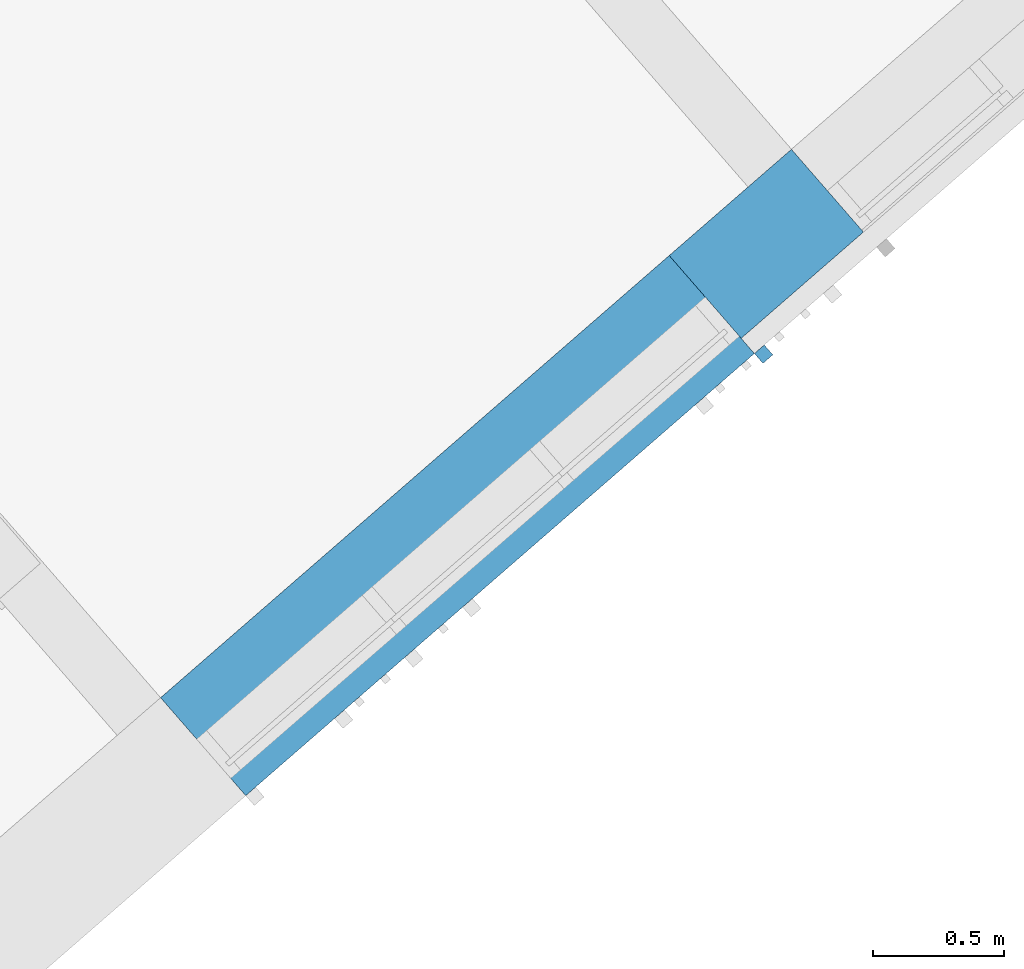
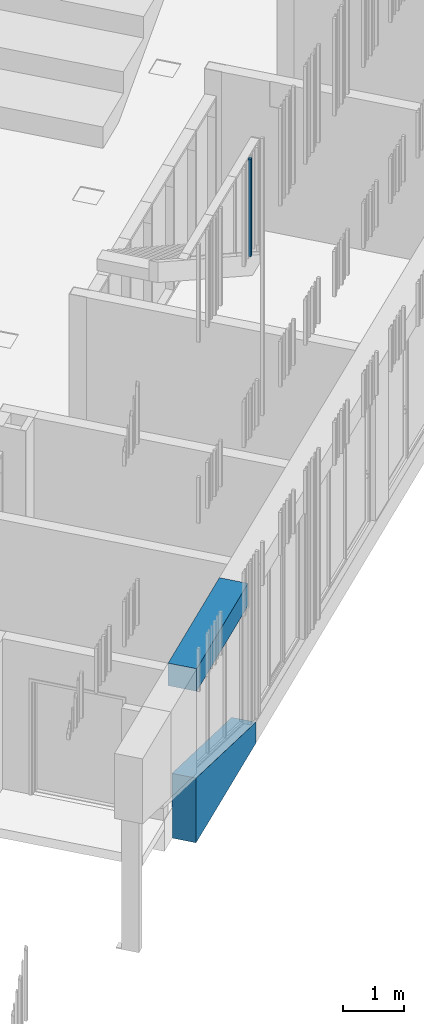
# One storey, part 35 of 124: 3 walls.
"""IFC2X3 building model written with IfcOpenShell, lengths in millimetres."""

from ifc_helpers import new_model, entity, si_unit, converted_unit, derived_unit, money_unit, direction, frame, origin_with_axes, place, context, subcontext, project, spatial, faceted_brep, material, material_list, type_object, element, save


model = new_model("IFC2X3")

# Units and contexts
model_context = context("Model", 3, precision=1e-05, world=origin_with_axes(), true_north=direction((0.0, 1.0)))
body_context = subcontext(model_context, "Body", "Model", "MODEL_VIEW")
ifc_project = project(units=[si_unit("LENGTHUNIT", "METRE", prefix="MILLI"), si_unit("AREAUNIT", "SQUARE_METRE"), si_unit("VOLUMEUNIT", "CUBIC_METRE"), converted_unit("PLANEANGLEUNIT", "DEGREE", entity("IfcPlaneAngleMeasure", 0.0174532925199), si_unit("PLANEANGLEUNIT", "RADIAN"), dimensions=[0, 0, 0, 0, 0, 0, 0]), si_unit("SOLIDANGLEUNIT", "STERADIAN"), money_unit("EUR"), converted_unit("TIMEUNIT", "Year", entity("IfcTimeMeasure", 31556926.0), si_unit("TIMEUNIT", "SECOND"), dimensions=[0, 0, 1, 0, 0, 0, 0]), si_unit("MASSUNIT", "GRAM", prefix="KILO"), si_unit("THERMODYNAMICTEMPERATUREUNIT", "DEGREE_CELSIUS"), si_unit("LUMINOUSINTENSITYUNIT", "LUMEN"), si_unit("ENERGYUNIT", "JOULE", prefix="MEGA"), derived_unit("THERMALCONDUCTANCEUNIT", [(si_unit("POWERUNIT", "WATT"), 1), (si_unit("LENGTHUNIT", "METRE"), -1), (si_unit("THERMODYNAMICTEMPERATUREUNIT", "KELVIN"), -1)]), derived_unit("SPECIFICHEATCAPACITYUNIT", [(si_unit("ENERGYUNIT", "JOULE"), 1), (si_unit("MASSUNIT", "GRAM", prefix="KILO"), -1), (si_unit("THERMODYNAMICTEMPERATUREUNIT", "KELVIN"), -1)]), derived_unit("MASSDENSITYUNIT", [(si_unit("MASSUNIT", "GRAM", prefix="KILO"), 1), (si_unit("VOLUMEUNIT", "CUBIC_METRE"), -1)])], contexts=[model_context])

# Site, building, storey
site_placement = place(None, origin_with_axes())
site = spatial("IfcSite", under=ifc_project, at=site_placement, Name="Site", CompositionType="ELEMENT")
building_placement = place(site_placement, origin_with_axes())
building = spatial("IfcBuilding", under=site, at=building_placement, Name="Building", CompositionType="ELEMENT")
storey_placement = place(building_placement, frame((0.0, 0.0, -1615.0), z_axis=(0.0, 0.0, 1.0), x_axis=(1.0, 0.0, 0.0)))
storey = spatial("IfcBuildingStorey", under=building, at=storey_placement, Name="0  korrus", CompositionType="ELEMENT", Elevation=-1615.0)

# Walls
ifc_material_1 = material(Name="Krohv - Lubjakivi")
ifc_material_2 = material(Name="Raudbetoon - Konstruktsioon")
ifc_material_3 = material(Name="Soojustus - Plastik Kõva")
ifc_material_4 = material(Name="Membraan - Veekindel")
ifc_material_list_1 = material_list([ifc_material_1, ifc_material_2, ifc_material_3, ifc_material_3, ifc_material_4, ifc_material_4])
wall_type_1 = type_object("IfcWallType", Name="VS-03", PredefinedType="NOTDEFINED")
wall_1_placement = place(storey_placement, frame((150680.075905, 76306.4580797, -620.0), z_axis=(0.0, 0.0, 1.0), x_axis=(0.754708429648, 0.656060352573, 0.0)))
element("IfcWall", 1, at=wall_1_placement, inside=storey, type_object=wall_type_1, material=ifc_material_list_1, Name="VS-03", context=body_context, shape_type="Brep", body=[
    faceted_brep([(3009.99995207, 0.0, 420.000005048), (3009.99995207, -10.0, 419.999999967), (3009.99995207, -10.0, 0.0), (3009.99995207, 0.0, 0.0), (0.0, -10.0, 1291.98478212), (0.0, 0.0, 1291.9847872), (0.0, -10.0, 0.0), (0.0, 0.0, 0.0)], [[[0, 1, 2, 3]], [[4, 1, 0, 5]], [[1, 4, 6, 2]], [[7, 3, 2, 6]], [[5, 0, 3, 7]], [[4, 5, 7, 6]]]),
    faceted_brep([(3009.99995207, -10.0, 419.999999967), (3009.99995207, -210.0, 419.999898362), (3009.99995207, -210.0, 0.0), (3009.99995207, -10.0, 0.0), (0.0, -210.0, 1291.98468051), (0.0, -10.0, 1291.98478212), (0.0, -210.0, 0.0), (0.0, -10.0, 0.0)], [[[0, 1, 2, 3]], [[4, 1, 0, 5]], [[1, 4, 6, 2]], [[7, 3, 2, 6]], [[5, 0, 3, 7]], [[4, 5, 7, 6]]]),
    faceted_brep([(3009.99995207, -210.0, 419.999898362), (3009.99995207, -360.0, 419.999822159), (3009.99995207, -360.0, 0.0), (3009.99995207, -210.0, 0.0), (0.0, -360.0, 1291.98460431), (0.0, -210.0, 1291.98468051), (0.0, -360.0, 0.0), (0.0, -210.0, 0.0)], [[[0, 1, 2, 3]], [[4, 1, 0, 5]], [[1, 4, 6, 2]], [[7, 3, 2, 6]], [[5, 0, 3, 7]], [[4, 5, 7, 6]]]),
    faceted_brep([(3009.99995207, -360.0, 419.999822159), (3009.99995207, -410.0, 419.999796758), (3009.99995207, -410.0, 0.0), (3009.99995207, -360.0, 0.0), (0.0, -410.0, 1291.98457891), (0.0, -360.0, 1291.98460431), (0.0, -410.0, 0.0), (0.0, -360.0, 0.0)], [[[0, 1, 2, 3]], [[4, 1, 0, 5]], [[1, 4, 6, 2]], [[7, 3, 2, 6]], [[5, 0, 3, 7]], [[4, 5, 7, 6]]]),
    faceted_brep([(3009.99995207, -410.0, 419.999796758), (3009.99995207, -415.0, 419.999794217), (3009.99995207, -415.0, 0.0), (3009.99995207, -410.0, 0.0), (0.0, -415.0, 1291.98457637), (0.0, -410.0, 1291.98457891), (0.0, -415.0, 0.0), (0.0, -410.0, 0.0)], [[[0, 1, 2, 3]], [[4, 1, 0, 5]], [[1, 4, 6, 2]], [[7, 3, 2, 6]], [[5, 0, 3, 7]], [[4, 5, 7, 6]]]),
    faceted_brep([(3009.99995207, -415.0, 419.999794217), (3009.99995207, -420.0, 419.999791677), (3009.99995207, -420.0, 0.0), (3009.99995207, -415.0, 0.0), (0.0, -420.0, 1291.98457383), (0.0, -415.0, 1291.98457637), (0.0, -420.0, 0.0), (0.0, -415.0, 0.0)], [[[0, 1, 2, 3]], [[4, 1, 0, 5]], [[1, 4, 6, 2]], [[7, 3, 2, 6]], [[5, 0, 3, 7]], [[4, 5, 7, 6]]]),
])
ifc_material_5 = material(Name="Puit - Konstruktsioon")
ifc_material_6 = material(Name="Õhkvahe")
ifc_material_7 = material(Name="Raudbetoon - Toode")
ifc_material_list_2 = material_list([ifc_material_5, ifc_material_5, ifc_material_6, ifc_material_3, ifc_material_3, ifc_material_7, ifc_material_1])
wall_type_2 = type_object("IfcWallType", Name="VS-01", PredefinedType="NOTDEFINED")
wall_2_placement = place(storey_placement, frame((152483.826786, 77874.4422771, 2550.0), z_axis=(0.0, 0.0, 1.0), x_axis=(-0.754709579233, -0.656059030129, 0.0)))
element("IfcWall", 2, at=wall_2_placement, inside=storey, type_object=wall_type_2, material=ifc_material_list_2, Name="VS-01", context=body_context, shape_type="Brep", body=[
    faceted_brep([(2579.98426915, 497.0, 0.0), (2579.98426915, 475.0, 0.0), (0.0, 475.0, 0.0), (0.0, 497.0, 0.0), (2579.98426915, 497.0, 450.0), (2579.98426915, 475.0, 450.0), (0.0, 475.0, 450.0), (0.0, 497.0, 450.0)], [[[0, 1, 2, 3]], [[0, 4, 5, 1]], [[1, 5, 6, 2]], [[3, 2, 6, 7]], [[4, 0, 3, 7]], [[5, 4, 7, 6]]]),
    faceted_brep([(2579.98426915, 475.0, 0.0), (2579.98426915, 455.0, 0.0), (0.0, 455.0, 0.0), (0.0, 475.0, 0.0), (2579.98426915, 475.0, 450.0), (2579.98426915, 455.0, 450.0), (0.0, 455.0, 450.0), (0.0, 475.0, 450.0)], [[[0, 1, 2, 3]], [[0, 4, 5, 1]], [[1, 5, 6, 2]], [[3, 2, 6, 7]], [[4, 0, 3, 7]], [[5, 4, 7, 6]]]),
    faceted_brep([(2579.98426915, 455.0, 0.0), (2579.98426915, 410.0, 0.0), (0.0, 410.0, 0.0), (0.0, 455.0, 0.0), (2579.98426915, 455.0, 450.0), (2579.98426915, 410.0, 450.0), (0.0, 410.0, 450.0), (0.0, 455.0, 450.0)], [[[0, 1, 2, 3]], [[0, 4, 5, 1]], [[1, 5, 6, 2]], [[3, 2, 6, 7]], [[4, 0, 3, 7]], [[5, 4, 7, 6]]]),
    faceted_brep([(2579.98426915, 410.0, 0.0), (2579.98426915, 360.0, 0.0), (0.0, 360.0, 0.0), (0.0, 410.0, 0.0), (2579.98426915, 410.0, 450.0), (2579.98426915, 360.0, 450.0), (0.0, 360.0, 450.0), (0.0, 410.0, 450.0)], [[[0, 1, 2, 3]], [[0, 4, 5, 1]], [[1, 5, 6, 2]], [[3, 2, 6, 7]], [[4, 0, 3, 7]], [[5, 4, 7, 6]]]),
    faceted_brep([(2579.98426915, 360.0, 0.0), (2579.98426915, 210.0, 0.0), (0.0, 210.0, 0.0), (0.0, 360.0, 0.0), (2579.98426915, 360.0, 450.0), (2579.98426915, 210.0, 450.0), (0.0, 210.0, 450.0), (0.0, 360.0, 450.0)], [[[0, 1, 2, 3]], [[0, 4, 5, 1]], [[1, 5, 6, 2]], [[3, 2, 6, 7]], [[4, 0, 3, 7]], [[5, 4, 7, 6]]]),
    faceted_brep([(2579.98426915, 210.0, 0.0), (2579.98426915, 10.0, 0.0), (0.0, 10.0, 0.0), (0.0, 210.0, 0.0), (2579.98426915, 210.0, 450.0), (2579.98426915, 10.0, 450.0), (0.0, 10.0, 450.0), (0.0, 210.0, 450.0)], [[[0, 1, 2, 3]], [[0, 4, 5, 1]], [[1, 5, 6, 2]], [[3, 2, 6, 7]], [[4, 0, 3, 7]], [[5, 4, 7, 6]]]),
    faceted_brep([(2579.98426915, 10.0, 0.0), (2579.98426915, 0.0, 0.0), (0.0, 0.0, 0.0), (0.0, 10.0, 0.0), (2579.98426915, 10.0, 450.0), (2579.98426915, 0.0, 450.0), (0.0, 0.0, 450.0), (0.0, 10.0, 450.0)], [[[0, 1, 2, 3]], [[0, 4, 5, 1]], [[1, 5, 6, 2]], [[3, 2, 6, 7]], [[4, 0, 3, 7]], [[5, 4, 7, 6]]]),
])
ifc_material_8 = material(Name="Site specified")
wall_type_3 = type_object("IfcWallType", Name="Puitfassaadi ribistik", PredefinedType="NOTDEFINED")
wall_3_placement = place(storey_placement, frame((152845.157338, 77496.8853527, 9530.0), z_axis=(0.0, 0.0, 1.0), x_axis=(-0.754709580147, -0.656059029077, 0.0)))
element("IfcWall", 3, at=wall_3_placement, inside=storey, type_object=wall_type_3, material=ifc_material_8, Name="Site specified", context=body_context, shape_type="Brep", body=[
    faceted_brep([(25.0, 25.0, 1950.0), (25.0, 25.0, 0.0), (-25.0, 25.0, 0.0), (-25.0, 25.0, 1950.0), (25.0, -25.0, 1950.0), (25.0, -25.0, 0.0), (-25.0, -25.0, 0.0), (-25.0, -25.0, 1950.0)], [[[0, 1, 2, 3]], [[4, 5, 1, 0]], [[2, 1, 5, 6]], [[3, 2, 6, 7]], [[4, 0, 3, 7]], [[7, 6, 5, 4]]]),
])

save(model, "model.ifc")
